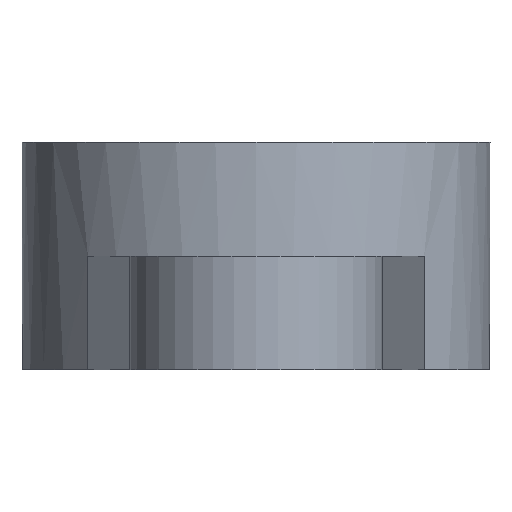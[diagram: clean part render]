
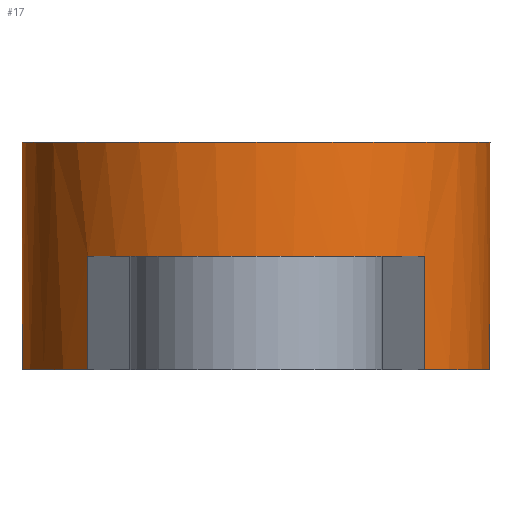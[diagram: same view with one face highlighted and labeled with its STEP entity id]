
A CAD part, left-side view. The second image highlights one B-rep face of the part: STEP entity #17.
In plain terms, the highlighted cylindrical face has radius 3.7 mm (diameter 7.4 mm), a full revolution.
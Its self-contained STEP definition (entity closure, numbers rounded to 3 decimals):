
#17 = ADVANCED_FACE('',(#18),#79,.T.);
#18 = FACE_BOUND('',#19,.T.);
#19 = EDGE_LOOP('',(#20,#30,#37,#38,#47,#55,#64,#72));
#20 = ORIENTED_EDGE('',*,*,#21,.T.);
#21 = EDGE_CURVE('',#22,#24,#26,.T.);
#22 = VERTEX_POINT('',#23);
#23 = CARTESIAN_POINT('',(3.7,0.,4.2));
#24 = VERTEX_POINT('',#25);
#25 = CARTESIAN_POINT('',(3.7,0.,7.8));
#26 = LINE('',#27,#28);
#27 = CARTESIAN_POINT('',(3.7,0.,4.2));
#28 = VECTOR('',#29,1.);
#29 = DIRECTION('',(0.,0.,1.));
#30 = ORIENTED_EDGE('',*,*,#31,.F.);
#31 = EDGE_CURVE('',#24,#24,#32,.T.);
#32 = CIRCLE('',#33,3.7);
#33 = AXIS2_PLACEMENT_3D('',#34,#35,#36);
#34 = CARTESIAN_POINT('',(0.,0.,7.8));
#35 = DIRECTION('',(0.,0.,1.));
#36 = DIRECTION('',(1.,0.,-0.));
#37 = ORIENTED_EDGE('',*,*,#21,.F.);
#38 = ORIENTED_EDGE('',*,*,#39,.T.);
#39 = EDGE_CURVE('',#22,#40,#42,.T.);
#40 = VERTEX_POINT('',#41);
#41 = CARTESIAN_POINT('',(-2.574,2.658,4.2));
#42 = CIRCLE('',#43,3.7);
#43 = AXIS2_PLACEMENT_3D('',#44,#45,#46);
#44 = CARTESIAN_POINT('',(0.,0.,4.2));
#45 = DIRECTION('',(0.,0.,1.));
#46 = DIRECTION('',(1.,0.,-0.));
#47 = ORIENTED_EDGE('',*,*,#48,.T.);
#48 = EDGE_CURVE('',#40,#49,#51,.T.);
#49 = VERTEX_POINT('',#50);
#50 = CARTESIAN_POINT('',(-2.574,2.658,6.));
#51 = LINE('',#52,#53);
#52 = CARTESIAN_POINT('',(-2.574,2.658,4.2));
#53 = VECTOR('',#54,1.);
#54 = DIRECTION('',(0.,0.,1.));
#55 = ORIENTED_EDGE('',*,*,#56,.T.);
#56 = EDGE_CURVE('',#49,#57,#59,.T.);
#57 = VERTEX_POINT('',#58);
#58 = CARTESIAN_POINT('',(-2.574,-2.658,6.));
#59 = CIRCLE('',#60,3.7);
#60 = AXIS2_PLACEMENT_3D('',#61,#62,#63);
#61 = CARTESIAN_POINT('',(0.,0.,6.));
#62 = DIRECTION('',(0.,0.,1.));
#63 = DIRECTION('',(1.,0.,-0.));
#64 = ORIENTED_EDGE('',*,*,#65,.F.);
#65 = EDGE_CURVE('',#66,#57,#68,.T.);
#66 = VERTEX_POINT('',#67);
#67 = CARTESIAN_POINT('',(-2.574,-2.658,4.2));
#68 = LINE('',#69,#70);
#69 = CARTESIAN_POINT('',(-2.574,-2.658,4.2));
#70 = VECTOR('',#71,1.);
#71 = DIRECTION('',(0.,0.,1.));
#72 = ORIENTED_EDGE('',*,*,#73,.T.);
#73 = EDGE_CURVE('',#66,#22,#74,.T.);
#74 = CIRCLE('',#75,3.7);
#75 = AXIS2_PLACEMENT_3D('',#76,#77,#78);
#76 = CARTESIAN_POINT('',(0.,0.,4.2));
#77 = DIRECTION('',(0.,0.,1.));
#78 = DIRECTION('',(1.,0.,-0.));
#79 = CYLINDRICAL_SURFACE('',#80,3.7);
#80 = AXIS2_PLACEMENT_3D('',#81,#82,#83);
#81 = CARTESIAN_POINT('',(0.,0.,4.2));
#82 = DIRECTION('',(0.,0.,1.));
#83 = DIRECTION('',(1.,0.,-0.));
